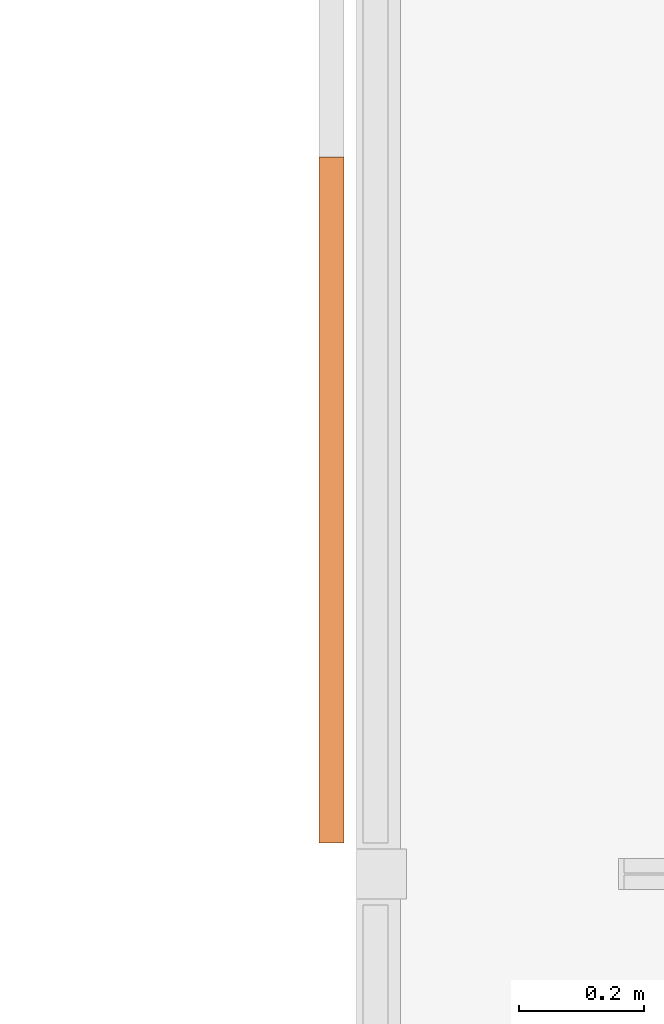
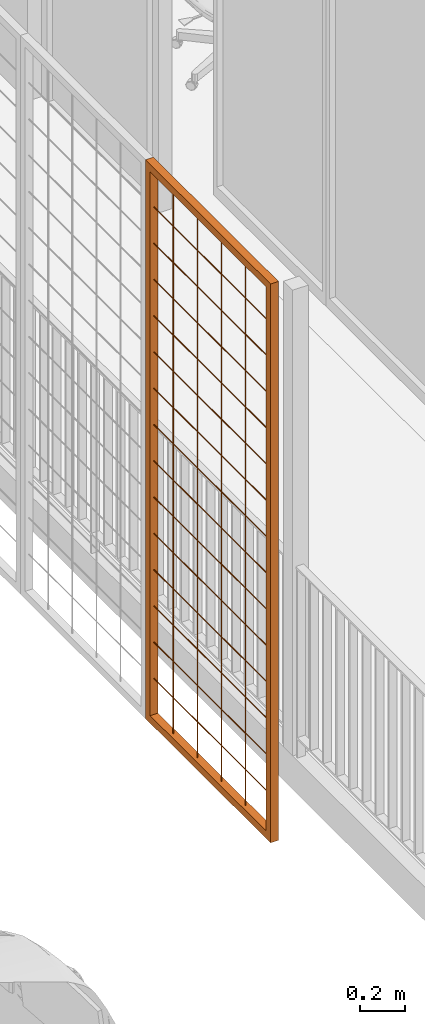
# One storey, part 44 of 51: 2 proxies.
"""IFC2X3 building model written with IfcOpenShell, lengths in metres."""

from ifc_helpers import new_model, entity, si_unit, converted_unit, derived_unit, direction, frame, origin, origin_2d_with_axis, place, context, subcontext, project, spatial, polyline, rectangle, outline, extrude, source, transform, mapped, material, type_object, type_shapes, element, save


model = new_model("IFC2X3")

# Units and contexts
model_context = context("Model", 3, precision=1e-05, world=origin(), true_north=direction((6.123031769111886e-17, 1.0)))
body_context = subcontext(model_context, "Body", "Model", "MODEL_VIEW")
ifc_project = project(units=[si_unit("LENGTHUNIT", "METRE"), si_unit("AREAUNIT", "SQUARE_METRE"), si_unit("VOLUMEUNIT", "CUBIC_METRE"), converted_unit("PLANEANGLEUNIT", "DEGREE", entity("IfcRatioMeasure", 0.017453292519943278), si_unit("PLANEANGLEUNIT", "RADIAN"), dimensions=[0, 0, 0, 0, 0, 0, 0]), si_unit("MASSUNIT", "GRAM", prefix="KILO"), derived_unit("MASSDENSITYUNIT", [(si_unit("MASSUNIT", "GRAM", prefix="KILO"), 1), (si_unit("LENGTHUNIT", "METRE"), -3)]), derived_unit("MOMENTOFINERTIAUNIT", [(si_unit("LENGTHUNIT", "METRE"), 4)]), si_unit("TIMEUNIT", "SECOND"), si_unit("FREQUENCYUNIT", "HERTZ"), si_unit("THERMODYNAMICTEMPERATUREUNIT", "DEGREE_CELSIUS"), derived_unit("THERMALTRANSMITTANCEUNIT", [(si_unit("MASSUNIT", "GRAM", prefix="KILO"), 1), (si_unit("THERMODYNAMICTEMPERATUREUNIT", "KELVIN"), -1), (si_unit("TIMEUNIT", "SECOND"), -3)]), derived_unit("THERMALCONDUCTANCEUNIT", [(si_unit("MASSUNIT", "GRAM", prefix="KILO"), 1), (si_unit("LENGTHUNIT", "METRE"), 1), (si_unit("THERMODYNAMICTEMPERATUREUNIT", "KELVIN"), -1), (si_unit("TIMEUNIT", "SECOND"), -3)]), derived_unit("VOLUMETRICFLOWRATEUNIT", [(si_unit("LENGTHUNIT", "METRE"), 3), (si_unit("TIMEUNIT", "SECOND"), -1)]), derived_unit("MASSFLOWRATEUNIT", [(si_unit("MASSUNIT", "GRAM", prefix="KILO"), 1), (si_unit("TIMEUNIT", "SECOND"), -1)]), derived_unit("ROTATIONALFREQUENCYUNIT", [(si_unit("TIMEUNIT", "SECOND"), -1)]), si_unit("ELECTRICCURRENTUNIT", "AMPERE"), si_unit("ELECTRICVOLTAGEUNIT", "VOLT"), si_unit("POWERUNIT", "WATT"), si_unit("FORCEUNIT", "NEWTON", prefix="KILO"), si_unit("ILLUMINANCEUNIT", "LUX"), si_unit("LUMINOUSFLUXUNIT", "LUMEN"), si_unit("LUMINOUSINTENSITYUNIT", "CANDELA"), derived_unit("USERDEFINED", [(si_unit("MASSUNIT", "GRAM", prefix="KILO"), -1), (si_unit("LENGTHUNIT", "METRE"), -2), (si_unit("TIMEUNIT", "SECOND"), 3), (si_unit("LUMINOUSFLUXUNIT", "LUMEN"), 1)]), derived_unit("USERDEFINED", [(si_unit("MASSUNIT", "GRAM", prefix="KILO"), 1), (si_unit("LENGTHUNIT", "METRE"), 3), (si_unit("TIMEUNIT", "SECOND"), -3), (si_unit("ELECTRICCURRENTUNIT", "AMPERE"), -2)]), derived_unit("USERDEFINED", [(si_unit("LENGTHUNIT", "METRE"), 2), (si_unit("TIMEUNIT", "SECOND"), -2)]), derived_unit("SOUNDPOWERUNIT", [(si_unit("MASSUNIT", "GRAM", prefix="KILO"), 1), (si_unit("LENGTHUNIT", "METRE"), 2), (si_unit("TIMEUNIT", "SECOND"), -3)]), derived_unit("SOUNDPRESSUREUNIT", [(si_unit("MASSUNIT", "GRAM", prefix="KILO"), 1), (si_unit("LENGTHUNIT", "METRE"), -1), (si_unit("TIMEUNIT", "SECOND"), -2)]), derived_unit("LINEARVELOCITYUNIT", [(si_unit("LENGTHUNIT", "METRE"), 1), (si_unit("TIMEUNIT", "SECOND"), -1)]), si_unit("PRESSUREUNIT", "PASCAL"), derived_unit("USERDEFINED", [(si_unit("LENGTHUNIT", "METRE"), -2), (si_unit("MASSUNIT", "GRAM", prefix="KILO"), 1), (si_unit("TIMEUNIT", "SECOND"), -2)]), derived_unit("LINEARFORCEUNIT", [(si_unit("MASSUNIT", "GRAM", prefix="KILO"), 1), (si_unit("LENGTHUNIT", "METRE"), 1), (si_unit("TIMEUNIT", "SECOND"), -2), (si_unit("LENGTHUNIT", "METRE"), -1)]), derived_unit("PLANARFORCEUNIT", [(si_unit("MASSUNIT", "GRAM", prefix="KILO"), 1), (si_unit("LENGTHUNIT", "METRE"), 1), (si_unit("TIMEUNIT", "SECOND"), -2), (si_unit("LENGTHUNIT", "METRE"), -2)]), derived_unit("SPECIFICHEATCAPACITYUNIT", [(si_unit("LENGTHUNIT", "METRE"), 2), (si_unit("TIMEUNIT", "SECOND"), -2), (si_unit("THERMODYNAMICTEMPERATUREUNIT", "KELVIN"), -1)]), derived_unit("VAPORPERMEABILITYUNIT", [(si_unit("TIMEUNIT", "SECOND"), 1), (si_unit("LENGTHUNIT", "METRE"), -1)]), derived_unit("DYNAMICVISCOSITYUNIT", [(si_unit("MASSUNIT", "GRAM", prefix="KILO"), 1), (si_unit("LENGTHUNIT", "METRE"), -1), (si_unit("TIMEUNIT", "SECOND"), -1)]), derived_unit("THERMALEXPANSIONCOEFFICIENTUNIT", [(si_unit("THERMODYNAMICTEMPERATUREUNIT", "KELVIN"), -1)])], contexts=[model_context])

# Site, building, storey
site_placement = place(None, origin())
site = spatial("IfcSite", under=ifc_project, at=site_placement, Name="Default", CompositionType="ELEMENT")
building_placement = place(site_placement, origin())
building = spatial("IfcBuilding", under=site, at=building_placement, CompositionType="ELEMENT")
storey_placement = place(building_placement, frame((0.0, 0.0, 3.06)))
storey = spatial("IfcBuildingStorey", under=building, at=storey_placement, Name="ÉTAGE", CompositionType="ELEMENT", Elevation=3.06)

# Proxies
ifc_material = material(Name="Peinture - Gris foncé")
building_element_proxy_type_1 = type_object("IfcBuildingElementProxyType", Name="Symb-0003", PredefinedType="NOTDEFINED", material=ifc_material)
shared_shape_1 = source(origin(), body_context, "Body", "SweptSolid", [
    extrude(outline(polyline([(-0.0011785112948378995, -0.002357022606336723), (0.0, -0.0023570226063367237), (0.001767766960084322, -0.0017677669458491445), (0.002357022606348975, 0.0), (0.0023570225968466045, 0.0011785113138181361), (0.0011785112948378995, 0.002357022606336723), (0.0, 0.002357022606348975), (-0.001767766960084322, 0.0017677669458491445), (-0.0023570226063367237, 0.0), (-0.0023570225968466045, -0.0011785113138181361), (-0.0011785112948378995, -0.002357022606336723)])), frame((139.86075228, 20.477209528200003, 6.7275), z_axis=(0.0, 1.0, 0.0), x_axis=(-0.7071067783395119, 0.0, -0.7071067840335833)), (0.0, 0.0, 1.0), 1.019999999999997),
    extrude(outline(polyline([(-0.0011785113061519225, -0.0023570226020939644), (0.0, -0.002357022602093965), (0.0017677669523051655, -0.001767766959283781), (0.0023570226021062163, 0.0), (0.002357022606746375, 0.0011785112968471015), (0.0011785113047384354, 0.0023570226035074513), (0.0, 0.0023570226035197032), (-0.0017677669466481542, 0.0017677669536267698), (-0.002357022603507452, 0.0), (-0.0023570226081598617, -0.0011785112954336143), (-0.0011785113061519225, -0.0023570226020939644)])), frame((139.86075228, 20.477209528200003, 6.532833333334), z_axis=(0.0, 1.0, 0.0), x_axis=(-0.7071067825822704, 0.0, -0.7071067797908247)), (0.0, 0.0, 1.0), 1.0199999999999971),
    extrude(outline(polyline([(-0.001178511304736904, -0.002357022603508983), (0.0, -0.002357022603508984), (0.0017677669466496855, -0.001767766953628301), (0.002357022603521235, 0.0), (0.0023570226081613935, 0.0011785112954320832), (0.0011785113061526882, 0.002357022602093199), (0.0, 0.002357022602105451), (-0.0017677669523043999, 0.0017677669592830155), (-0.0023570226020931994, 0.0), (-0.0023570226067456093, -0.0011785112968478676), (-0.001178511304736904, -0.002357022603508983)])), frame((139.86075228, 20.477209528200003, 6.338166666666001), z_axis=(0.0, 1.0, 0.0), x_axis=(-0.7071067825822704, 0.0, -0.7071067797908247)), (0.0, 0.0, 1.0), 1.019999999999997),
    extrude(outline(polyline([(-0.0011785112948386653, -0.0023570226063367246), (0.0, -0.0023570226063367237), (0.0017677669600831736, -0.001767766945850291), (0.002357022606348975, 0.0), (0.0023570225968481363, 0.001178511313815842), (0.0011785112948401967, 0.0023570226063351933), (0.0, 0.002357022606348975), (-0.001767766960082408, 0.0017677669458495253), (-0.0023570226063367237, 0.0), (-0.002357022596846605, -0.0011785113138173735), (-0.0011785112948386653, -0.0023570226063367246)])), frame((139.86075228, 20.477209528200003, 6.1435), z_axis=(0.0, 1.0, 0.0), x_axis=(-0.7071067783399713, 0.0, -0.7071067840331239)), (0.0, 0.0, 1.0), 1.019999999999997),
    extrude(outline(polyline([(-0.0011785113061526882, -0.002357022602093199), (0.0, -0.0023570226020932), (0.0017677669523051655, -0.001767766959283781), (0.002357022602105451, 0.0), (0.0023570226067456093, 0.0011785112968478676), (0.0011785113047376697, 0.002357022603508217), (0.0, 0.0023570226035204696), (-0.0017677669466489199, 0.0017677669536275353), (-0.002357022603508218, 0.0), (-0.0023570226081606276, -0.0011785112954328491), (-0.0011785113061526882, -0.002357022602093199)])), frame((139.86075228, 20.477209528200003, 5.948833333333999), z_axis=(0.0, 1.0, 0.0), x_axis=(-0.7071067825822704, 0.0, -0.7071067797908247)), (0.0, 0.0, 1.0), 1.019999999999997),
    extrude(outline(polyline([(-0.0011785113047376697, -0.002357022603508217), (0.0, -0.002357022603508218), (0.0017677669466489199, -0.0017677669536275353), (0.0023570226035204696, 0.0), (0.0023570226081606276, 0.0011785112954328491), (0.0011785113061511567, 0.0023570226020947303), (0.0, 0.0023570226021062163), (-0.0017677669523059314, 0.0017677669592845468), (-0.0023570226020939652, 0.0), (-0.0023570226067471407, -0.0011785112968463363), (-0.0011785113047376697, -0.002357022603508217)])), frame((139.86075228, 20.477209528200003, 5.754166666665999), z_axis=(0.0, 1.0, 0.0), x_axis=(-0.7071067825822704, 0.0, -0.7071067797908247)), (0.0, 0.0, 1.0), 1.019999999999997),
    extrude(outline(polyline([(-0.001178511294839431, -0.0023570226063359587), (0.0, -0.002357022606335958), (0.001767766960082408, -0.0017677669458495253), (0.0023570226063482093, 0.0), (0.0023570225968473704, 0.0011785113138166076), (0.001178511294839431, 0.0023570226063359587), (0.0, 0.0023570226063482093), (-0.001767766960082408, 0.0017677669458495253), (-0.002357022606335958, 0.0), (-0.0023570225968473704, -0.0011785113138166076), (-0.001178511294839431, -0.0023570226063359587)])), frame((139.86075228, 20.477209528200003, 5.5595), z_axis=(0.0, 1.0, 0.0), x_axis=(-0.7071067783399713, 0.0, -0.7071067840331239)), (0.0, 0.0, 1.0), 1.019999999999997),
    extrude(outline(polyline([(-0.0011785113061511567, -0.0023570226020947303), (0.0, -0.002357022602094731), (0.001767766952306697, -0.0017677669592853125), (0.002357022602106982, 0.0), (0.0023570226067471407, 0.0011785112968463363), (0.001178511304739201, 0.0023570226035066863), (0.0, 0.0023570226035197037), (-0.0017677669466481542, 0.0017677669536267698), (-0.002357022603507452, 0.0), (-0.0023570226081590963, -0.0011785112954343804), (-0.0011785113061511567, -0.0023570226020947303)])), frame((139.86075228, 20.477209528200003, 5.364833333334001), z_axis=(0.0, 1.0, 0.0), x_axis=(-0.7071067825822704, 0.0, -0.7071067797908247)), (0.0, 0.0, 1.0), 1.019999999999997),
    extrude(outline(polyline([(-0.001178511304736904, -0.002357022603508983), (0.0, -0.002357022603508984), (0.0017677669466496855, -0.001767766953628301), (0.002357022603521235, 0.0), (0.0023570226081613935, 0.0011785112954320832), (0.0011785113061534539, 0.002357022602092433), (0.0, 0.002357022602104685), (-0.0017677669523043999, 0.0017677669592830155), (-0.002357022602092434, 0.0), (-0.0023570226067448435, -0.0011785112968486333), (-0.001178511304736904, -0.002357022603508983)])), frame((139.86075228, 20.477209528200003, 5.1701666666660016), z_axis=(0.0, 1.0, 0.0), x_axis=(-0.7071067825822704, 0.0, -0.7071067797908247)), (0.0, 0.0, 1.0), 1.019999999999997),
    extrude(outline(polyline([(-0.001178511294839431, -0.0023570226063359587), (0.0, -0.002357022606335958), (0.001767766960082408, -0.0017677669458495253), (0.0023570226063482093, 0.0), (0.0023570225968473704, 0.0011785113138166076), (0.0011785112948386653, 0.0023570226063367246), (0.0, 0.0023570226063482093), (-0.0017677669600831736, 0.001767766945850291), (-0.002357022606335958, 0.0), (-0.0023570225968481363, -0.001178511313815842), (-0.001178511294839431, -0.0023570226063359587)])), frame((139.86075228, 20.477209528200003, 4.975499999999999), z_axis=(0.0, 1.0, 0.0), x_axis=(-0.7071067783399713, 0.0, -0.7071067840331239)), (0.0, 0.0, 1.0), 1.019999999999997),
    extrude(outline(polyline([(-0.0011785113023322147, -0.0023570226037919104), (0.0, -0.002357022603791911), (0.0017677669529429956, -0.0017677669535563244), (0.002357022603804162, 0.0), (0.002357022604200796, 0.0011785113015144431), (0.0011785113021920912, 0.002357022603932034), (0.0, 0.0023570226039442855), (-0.001767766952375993, 0.0017677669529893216), (-0.0023570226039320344, 0.0), (-0.0023570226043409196, -0.0011785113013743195), (-0.0011785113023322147, -0.0023570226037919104)])), frame((139.86075228, 20.477209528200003, 4.780833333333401), z_axis=(0.0, 1.0, 0.0), x_axis=(-0.7071067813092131, 0.0, -0.7071067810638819)), (0.0, 0.0, 1.0), 1.0199999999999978),
    extrude(outline(polyline([(-0.0011785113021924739, -0.0023570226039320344), (0.0, -0.0023570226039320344), (0.0017677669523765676, -0.0017677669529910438), (0.002357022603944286, 0.0), (0.0023570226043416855, 0.0011785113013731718), (0.0011785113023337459, 0.002357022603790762), (0.0, 0.0023570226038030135), (-0.0017677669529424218, 0.0017677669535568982), (-0.0023570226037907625, 0.0), (-0.002357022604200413, -0.001178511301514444), (-0.0011785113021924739, -0.0023570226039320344)])), frame((139.86075228, 20.477209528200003, 4.5861666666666), z_axis=(0.0, 1.0, 0.0), x_axis=(-0.7071067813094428, 0.0, -0.7071067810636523)), (0.0, 0.0, 1.0), 1.0199999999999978),
    extrude(outline(polyline([(-0.0011785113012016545, -0.0023570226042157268), (0.0, -0.002357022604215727), (0.001767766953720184, -0.0017677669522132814), (0.0023570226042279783, 0.0), (0.0023570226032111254, 0.0011785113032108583), (0.001178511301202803, 0.0023570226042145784), (0.0, 0.002357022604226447), (-0.0017677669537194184, 0.0017677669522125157), (-0.002357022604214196, 0.0), (-0.0023570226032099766, -0.0011785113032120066), (-0.0011785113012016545, -0.0023570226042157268)])), frame((139.86075228, 20.477209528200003, 4.391500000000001), z_axis=(0.0, 1.0, 0.0), x_axis=(-0.707106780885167, 0.0, -0.707106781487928)), (0.0, 0.0, 1.0), 1.0199999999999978),
    extrude(outline(polyline([(-0.0011785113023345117, -0.0023570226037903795), (0.0, -0.0023570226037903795), (0.0017677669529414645, -0.0017677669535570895), (0.0023570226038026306, 0.0), (0.002357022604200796, 0.0011785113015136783), (0.001178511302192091, 0.0023570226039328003), (0.0, 0.002357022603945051), (-0.00176776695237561, 0.001767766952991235), (-0.0023570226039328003, 0.0), (-0.002357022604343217, -0.0011785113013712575), (-0.0011785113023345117, -0.0023570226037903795)])), frame((139.86075228, 20.477209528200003, 4.196833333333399), z_axis=(0.0, 1.0, 0.0), x_axis=(-0.7071067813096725, 0.0, -0.7071067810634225)), (0.0, 0.0, 1.0), 1.0199999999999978),
    extrude(outline(polyline([(-0.001178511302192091, -0.002357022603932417), (0.0, -0.0023570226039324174), (0.0017677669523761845, -0.0017677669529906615), (0.0023570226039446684, 0.0), (0.0023570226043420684, 0.0011785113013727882), (0.0011785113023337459, 0.002357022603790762), (0.0, 0.0023570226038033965), (-0.001767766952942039, 0.001767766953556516), (-0.0023570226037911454, 0.0), (-0.002357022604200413, -0.0011785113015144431), (-0.001178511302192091, -0.002357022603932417)])), frame((139.86075228, 20.477209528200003, 4.0021666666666), z_axis=(0.0, 1.0, 0.0), x_axis=(-0.7071067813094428, 0.0, -0.7071067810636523)), (0.0, 0.0, 1.0), 1.0199999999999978),
    extrude(rectangle(XDim=1.1000000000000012, YDim=0.039999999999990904, at=origin_2d_with_axis()), frame((139.86075227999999, 20.987209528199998, 6.73), z_axis=(0.0, 0.0, 1.0), x_axis=(0.0, 1.0, 0.0)), (0.0, 0.0, 1.0), 0.03999999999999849),
    extrude(rectangle(XDim=1.1000000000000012, YDim=0.039999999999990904, at=origin_2d_with_axis()), frame((139.86075227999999, 20.987209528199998, 3.7699999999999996), z_axis=(0.0, 0.0, 1.0), x_axis=(0.0, 1.0, 0.0)), (0.0, 0.0, 1.0), 0.04000000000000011),
    extrude(rectangle(XDim=0.03999999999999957, YDim=0.039999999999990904, at=origin_2d_with_axis()), frame((139.86075227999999, 20.457209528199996, 3.8099999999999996), z_axis=(0.0, 0.0, 1.0), x_axis=(0.0, 1.0, 0.0)), (0.0, 0.0, 1.0), 2.9200000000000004),
    extrude(rectangle(XDim=0.03999999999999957, YDim=0.039999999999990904, at=origin_2d_with_axis()), frame((139.86075227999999, 21.5172095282, 3.8099999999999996), z_axis=(0.0, 0.0, 1.0), x_axis=(0.0, 1.0, 0.0)), (0.0, 0.0, 1.0), 2.9200000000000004),
])
type_shapes(building_element_proxy_type_1, [shared_shape_1])
proxy_1_placement = place(storey_placement, frame((0.0, 0.0, -3.06)))
element("IfcBuildingElementProxy", 1, at=proxy_1_placement, inside=storey, type_object=building_element_proxy_type_1, material=ifc_material, Name="Symb-0003 287706:Symb-0003 287706", ObjectType="Symb-0003 287706:Symb-0003 287706", context=body_context, shape_type="MappedRepresentation", body=[
    mapped(shared_shape_1, transform((0.0, 0.0, 0.0), scale=1.0)),
])
building_element_proxy_type_2 = type_object("IfcBuildingElementProxyType", Name="Symb-0003", PredefinedType="NOTDEFINED", material=ifc_material)
shared_shape_2 = source(origin(), body_context, "Body", "SweptSolid", [
    extrude(outline(polyline([(-0.0011180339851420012, -0.0022360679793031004), (0.0007453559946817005, -0.0022360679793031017), (0.0018633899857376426, -0.0018633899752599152), (0.0026087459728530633, -0.00037267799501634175), (0.0022360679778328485, 0.0007453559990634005), (0.0011180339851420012, 0.0022360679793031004), (-0.0007453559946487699, 0.002236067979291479), (-0.0018633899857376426, 0.0018633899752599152), (-0.002608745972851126, 0.0003726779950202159), (-0.002236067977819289, -0.000745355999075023), (-0.0011180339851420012, -0.0022360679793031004)])), frame((139.86075228, 20.479709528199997, 3.81), z_axis=(0.0, 0.0, 1.0), x_axis=(-0.8944271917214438, -0.4472135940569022, 0.0)), (0.0, 0.0, 1.0), 2.9200000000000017),
    extrude(outline(polyline([(-0.0011180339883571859, -0.0022360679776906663), (0.0007453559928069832, -0.002236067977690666), (0.0018633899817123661, -0.0018633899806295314), (0.0026087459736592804, -0.00037267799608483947), (0.002236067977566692, 0.0007453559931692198), (0.0011180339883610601, 0.002236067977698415), (-0.0007453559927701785, 0.0022360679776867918), (-0.0018633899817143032, 0.001863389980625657), (-0.0026087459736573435, 0.0003726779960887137), (-0.0022360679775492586, -0.0007453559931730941), (-0.0011180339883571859, -0.0022360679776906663)])), frame((139.86075228, 20.6917095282, 3.81), z_axis=(0.0, 0.0, 1.0), x_axis=(-0.8944271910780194, -0.4472135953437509, 0.0)), (0.0, 0.0, 1.0), 2.920000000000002),
    extrude(outline(polyline([(-0.0011180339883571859, -0.0022360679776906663), (0.0007453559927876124, -0.0022360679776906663), (0.0018633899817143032, -0.0018633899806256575), (0.0026087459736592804, -0.00037267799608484), (0.002236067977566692, 0.0007453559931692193), (0.0011180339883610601, 0.002236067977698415), (-0.0007453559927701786, 0.002236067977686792), (-0.0018633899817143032, 0.0018633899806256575), (-0.0026087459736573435, 0.00037267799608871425), (-0.0022360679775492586, -0.0007453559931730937), (-0.0011180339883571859, -0.0022360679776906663)])), frame((139.86075228, 20.9037095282, 3.81), z_axis=(0.0, 0.0, 1.0), x_axis=(-0.8944271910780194, -0.4472135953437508, 0.0)), (0.0, 0.0, 1.0), 2.9200000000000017),
    extrude(outline(polyline([(-0.0011180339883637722, -0.002236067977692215), (0.0007453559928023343, -0.002236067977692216), (0.0018633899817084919, -0.0018633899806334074), (0.002608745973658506, -0.00037267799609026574), (0.002236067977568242, 0.0007453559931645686), (0.0011180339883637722, 0.002236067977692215), (-0.0007453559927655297, 0.0022360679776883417), (-0.0018633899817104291, 0.0018633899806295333), (-0.002608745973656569, 0.00037267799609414), (-0.002236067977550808, -0.0007453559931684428), (-0.0011180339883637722, -0.002236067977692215)])), frame((139.86075228, 21.1157095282, 3.81), z_axis=(0.0, 0.0, 1.0), x_axis=(-0.8944271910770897, -0.4472135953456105, 0.0)), (0.0, 0.0, 1.0), 2.920000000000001),
    extrude(outline(polyline([(-0.0011180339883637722, -0.002236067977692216), (0.0007453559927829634, -0.0022360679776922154), (0.0018633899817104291, -0.0018633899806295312), (0.002608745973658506, -0.00037267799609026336), (0.002236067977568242, 0.0007453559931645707), (0.0011180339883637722, 0.002236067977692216), (-0.0007453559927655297, 0.0022360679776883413), (-0.0018633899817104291, 0.0018633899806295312), (-0.002608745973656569, 0.0003726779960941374), (-0.002236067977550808, -0.0007453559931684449), (-0.0011180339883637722, -0.002236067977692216)])), frame((139.86075228, 21.3277095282, 3.81), z_axis=(0.0, 0.0, 1.0), x_axis=(-0.8944271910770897, -0.4472135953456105, 0.0)), (0.0, 0.0, 1.0), 2.920000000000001),
    extrude(rectangle(XDim=1.1000000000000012, YDim=0.039999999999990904, at=origin_2d_with_axis()), frame((139.86075227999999, 20.987209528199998, 6.73), z_axis=(0.0, 0.0, 1.0), x_axis=(0.0, 1.0, 0.0)), (0.0, 0.0, 1.0), 0.03999999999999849),
    extrude(rectangle(XDim=1.1000000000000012, YDim=0.039999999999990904, at=origin_2d_with_axis()), frame((139.86075227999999, 20.987209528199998, 3.7699999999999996), z_axis=(0.0, 0.0, 1.0), x_axis=(0.0, 1.0, 0.0)), (0.0, 0.0, 1.0), 0.04000000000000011),
    extrude(rectangle(XDim=0.03999999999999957, YDim=0.039999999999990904, at=origin_2d_with_axis()), frame((139.86075227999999, 20.457209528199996, 3.8099999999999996), z_axis=(0.0, 0.0, 1.0), x_axis=(0.0, 1.0, 0.0)), (0.0, 0.0, 1.0), 2.9200000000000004),
    extrude(rectangle(XDim=0.03999999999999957, YDim=0.039999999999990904, at=origin_2d_with_axis()), frame((139.86075227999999, 21.5172095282, 3.8099999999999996), z_axis=(0.0, 0.0, 1.0), x_axis=(0.0, 1.0, 0.0)), (0.0, 0.0, 1.0), 2.9200000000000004),
])
type_shapes(building_element_proxy_type_2, [shared_shape_2])
proxy_2_placement = place(storey_placement, frame((0.0, 0.0, -3.06)))
element("IfcBuildingElementProxy", 2, at=proxy_2_placement, inside=storey, type_object=building_element_proxy_type_2, material=ifc_material, Name="Symb-0003 464695:Symb-0003 464695", ObjectType="Symb-0003 464695:Symb-0003 464695", context=body_context, shape_type="MappedRepresentation", body=[
    mapped(shared_shape_2, transform((0.0, 0.0, 0.0), scale=1.0)),
])

save(model, "model.ifc")
